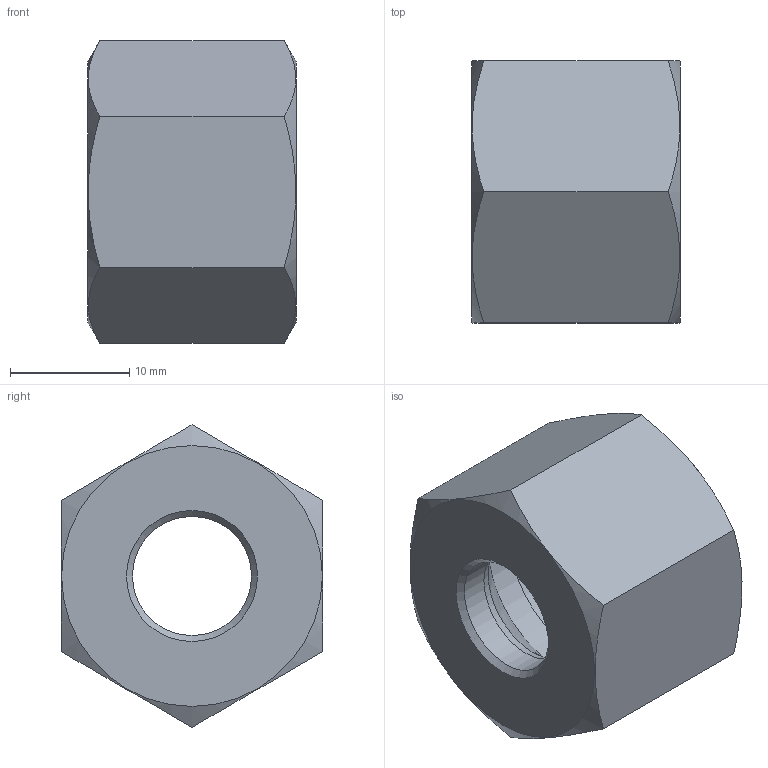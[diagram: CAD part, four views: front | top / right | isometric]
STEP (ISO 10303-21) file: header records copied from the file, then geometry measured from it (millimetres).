
FILE_DESCRIPTION( ( 'Unknown' ), '1' );
FILE_NAME( 'C:/Users/p.nanko/Desktop/3D SR/M10S.stp', 'Unknown', ( 'Peter Nanko' ), ( 'Armaturen Arndt' ), 'PSStep 14.0', 'Solid Edge ST4', ' ' );
FILE_SCHEMA( ( 'AUTOMOTIVE_DESIGN { 1 0 10303 214 1 1 1 1 }' ) );
Length unit declared in the file: millimetre
Products named in the file (1): 1
Bounding box: 17.5 x 22 x 25.4 mm (x, y, z)
Volume: 4275.4 mm3; surface area: 2671.5 mm2
Topology: 1 solids, 1 shells, 17 faces, 39 edges, 24 vertices
Faces by surface type: plane 8, cone 6, cylinder 3
Full cylindrical faces by diameter (mm): 10 x1, 16.376 x2
Entity records: 676 total; most frequent: CARTESIAN_POINT 200, DIRECTION 62, ORIENTED_EDGE 56, AXIS2_PLACEMENT_3D 28, EDGE_LOOP 28, EDGE_CURVE 28, VERTEX_POINT 22, FACE_OUTER_BOUND 20
